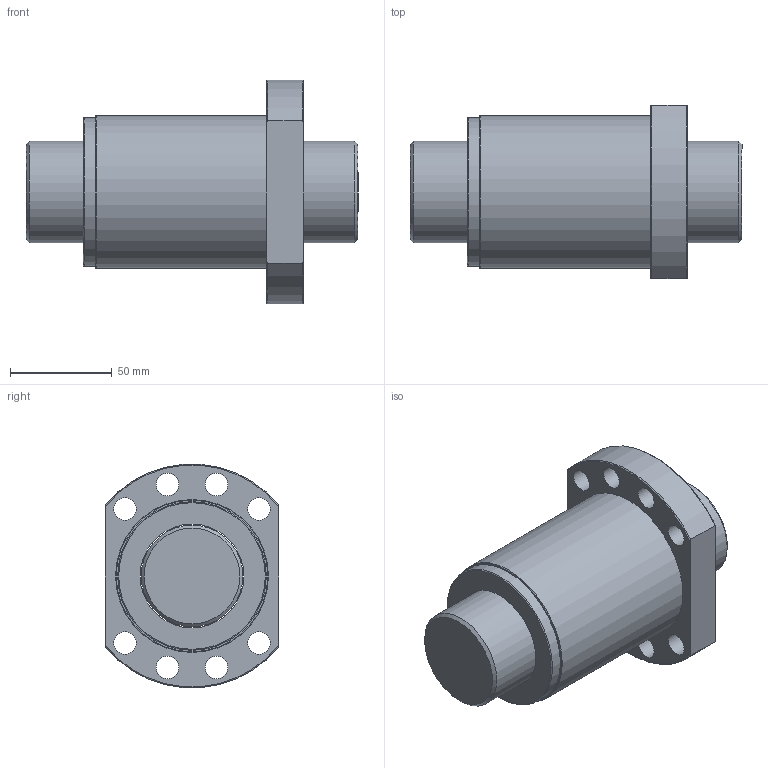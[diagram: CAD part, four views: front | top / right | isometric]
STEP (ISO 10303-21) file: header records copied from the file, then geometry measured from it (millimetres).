
FILE_DESCRIPTION(/* description */ (''),/* implementation_level */ '2;1');
FILE_NAME(/* name */ 'SFS5020',/* time_stamp */ '2007-10-26T12:09:06+08:00',/* author */ (''),/* organization */ (''),/* preprocessor_version */ 'ST-DEVELOPER v9',/* originating_system */ 'UGS - NX 3.0',/* authorisation */ '');
FILE_SCHEMA (('CONFIG_CONTROL_DESIGN'));
Length unit declared in the file: millimetre
Products named in the file (1): jaso15A4i30w
Bounding box: 163 x 85 x 109.65 mm (x, y, z)
Volume: 629747.8 mm3; surface area: 100869.4 mm2
Topology: 4 solids, 4 shells, 39 faces, 90 edges, 61 vertices
Faces by surface type: cylinder 18, plane 12, torus 7, cone 2
Full cylindrical faces by diameter (mm): 11 x8, 50 x1, 51 x3, 73 x2, 75 x2
Entity records: 1208 total; most frequent: CARTESIAN_POINT 298, DIRECTION 178, ORIENTED_EDGE 122, AXIS2_PLACEMENT_3D 85, EDGE_LOOP 84, FACE_BOUND 64, EDGE_CURVE 61, VERTEX_POINT 53
